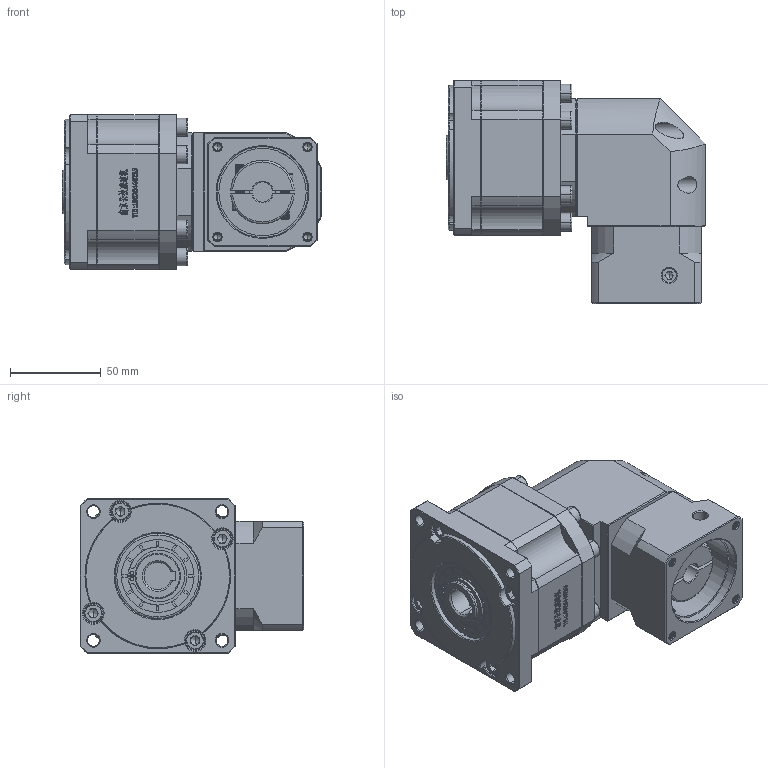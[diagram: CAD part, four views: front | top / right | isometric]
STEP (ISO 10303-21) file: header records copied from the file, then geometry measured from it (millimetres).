
FILE_DESCRIPTION (( 'STEP AP214' ), '1' );
FILE_NAME ('ZBR90-K15-L2-11-50-70-M5.step', '2022-05-07T15:23:36', ( '' ), ( 'Microsoft' ), 'SwSTEP 2.0', 'SolidWorks 2016', '' );
FILE_SCHEMA (( 'AUTOMOTIVE_DESIGN' ));
Length unit declared in the file: millimetre
Products named in the file (1): ZBR90-K15-L2-11-50-70-M5
Bounding box: 142.5 x 122.7 x 85 mm (x, y, z)
Volume: 782410.9 mm3; surface area: 98164.5 mm2
Topology: 5 solids, 5 shells, 2990 faces, 8041 edges, 5194 vertices
Faces by surface type: plane 1591, bspline 598, cylinder 418, cone 363, torus 20
Entity records: 157318 total; most frequent: CARTESIAN_POINT 53860, ORIENTED_EDGE 15994, DIRECTION 12382, EDGE_CURVE 7997, LINE 5306, VECTOR 5306, VERTEX_POINT 5194, AXIS2_PLACEMENT_3D 3538
